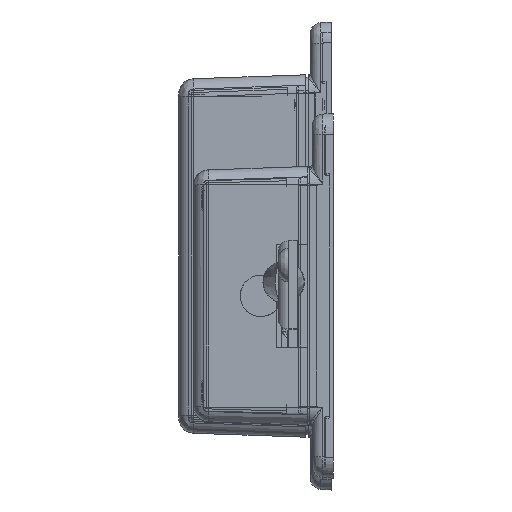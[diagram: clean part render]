
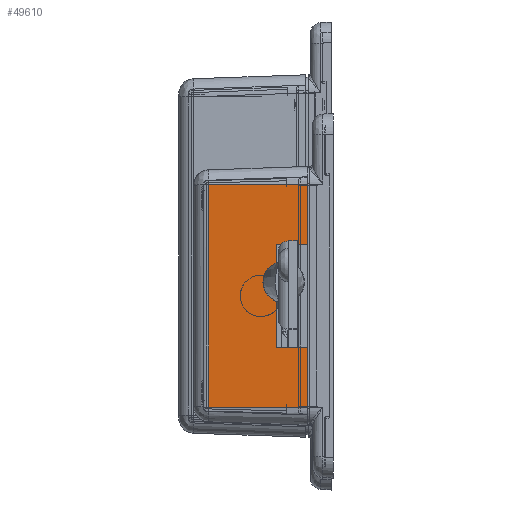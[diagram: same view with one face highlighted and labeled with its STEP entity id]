
A CAD part, left-side view. The second image highlights one B-rep face of the part: STEP entity #49610.
In plain terms, the highlighted planar face has unit normal (-0.999, 0.035, 0) as drawn and (-0.999, 0, 0.035) by its records, which use the part's own axes.
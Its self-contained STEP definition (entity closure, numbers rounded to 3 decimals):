
#4096=PLANE('',#53622);
#6618=FACE_OUTER_BOUND('',#9538,.T.);
#9538=EDGE_LOOP('',(#42772,#42773,#42774,#42775,#42776,#42777,#42778,#42779));
#14125=LINE('',#84311,#19406);
#14128=LINE('',#84317,#19409);
#14132=LINE('',#84324,#19413);
#14133=LINE('',#84327,#19414);
#14134=LINE('',#84329,#19415);
#14135=LINE('',#84331,#19416);
#14136=LINE('',#84333,#19417);
#14137=LINE('',#84334,#19418);
#19406=VECTOR('',#63769,10.);
#19409=VECTOR('',#63774,10.);
#19413=VECTOR('',#63780,10.);
#19414=VECTOR('',#63783,43.);
#19415=VECTOR('',#63784,19.116);
#19416=VECTOR('',#63785,43.);
#19417=VECTOR('',#63786,19.116);
#19418=VECTOR('',#63787,43.);
#24494=VERTEX_POINT('',#84308);
#24495=VERTEX_POINT('',#84310);
#24497=VERTEX_POINT('',#84316);
#24499=VERTEX_POINT('',#84322);
#24500=VERTEX_POINT('',#84326);
#24501=VERTEX_POINT('',#84328);
#24502=VERTEX_POINT('',#84330);
#24503=VERTEX_POINT('',#84332);
#30816=EDGE_CURVE('',#24495,#24494,#14125,.T.);
#30819=EDGE_CURVE('',#24497,#24495,#14128,.T.);
#30823=EDGE_CURVE('',#24494,#24499,#14132,.T.);
#30824=EDGE_CURVE('',#24499,#24500,#14133,.T.);
#30825=EDGE_CURVE('',#24500,#24501,#14134,.T.);
#30826=EDGE_CURVE('',#24502,#24501,#14135,.T.);
#30827=EDGE_CURVE('',#24503,#24502,#14136,.T.);
#30828=EDGE_CURVE('',#24503,#24497,#14137,.T.);
#42772=ORIENTED_EDGE('',*,*,#30823,.T.);
#42773=ORIENTED_EDGE('',*,*,#30824,.T.);
#42774=ORIENTED_EDGE('',*,*,#30825,.T.);
#42775=ORIENTED_EDGE('',*,*,#30826,.F.);
#42776=ORIENTED_EDGE('',*,*,#30827,.F.);
#42777=ORIENTED_EDGE('',*,*,#30828,.T.);
#42778=ORIENTED_EDGE('',*,*,#30819,.T.);
#42779=ORIENTED_EDGE('',*,*,#30816,.T.);
#49610=ADVANCED_FACE('',(#6618),#4096,.T.);
#53622=AXIS2_PLACEMENT_3D('',#84325,#63781,#63782);
#63769=DIRECTION('',(0.,-1.,0.));
#63774=DIRECTION('',(0.035,0.,0.999));
#63780=DIRECTION('',(-0.035,0.,-0.999));
#63781=DIRECTION('center_axis',(-0.999,0.,0.035));
#63782=DIRECTION('ref_axis',(0.,-1.,0.));
#63783=DIRECTION('',(0.,-1.,0.));
#63784=DIRECTION('',(0.035,0.,0.999));
#63785=DIRECTION('',(0.,-1.,0.));
#63786=DIRECTION('',(0.035,0.,0.999));
#63787=DIRECTION('',(0.,-1.,0.));
#84308=CARTESIAN_POINT('',(-24.79,-10.,6.));
#84310=CARTESIAN_POINT('',(-24.79,10.,6.));
#84311=CARTESIAN_POINT('',(-24.79,-5.75,6.));
#84316=CARTESIAN_POINT('',(-25.,10.,0.));
#84317=CARTESIAN_POINT('',(-24.913,10.,2.5));
#84322=CARTESIAN_POINT('',(-25.,-10.,0.));
#84324=CARTESIAN_POINT('',(-24.911,-10.,2.535));
#84325=CARTESIAN_POINT('Origin',(-25.,-21.5,0.));
#84326=CARTESIAN_POINT('',(-25.,-21.5,0.));
#84327=CARTESIAN_POINT('',(-25.,21.5,0.));
#84328=CARTESIAN_POINT('',(-24.333,-21.5,19.105));
#84329=CARTESIAN_POINT('',(-25.,-21.5,0.));
#84330=CARTESIAN_POINT('',(-24.333,21.5,19.105));
#84331=CARTESIAN_POINT('',(-24.333,21.5,19.105));
#84332=CARTESIAN_POINT('',(-25.,21.5,0.));
#84333=CARTESIAN_POINT('',(-25.,21.5,0.));
#84334=CARTESIAN_POINT('',(-25.,21.5,0.));
